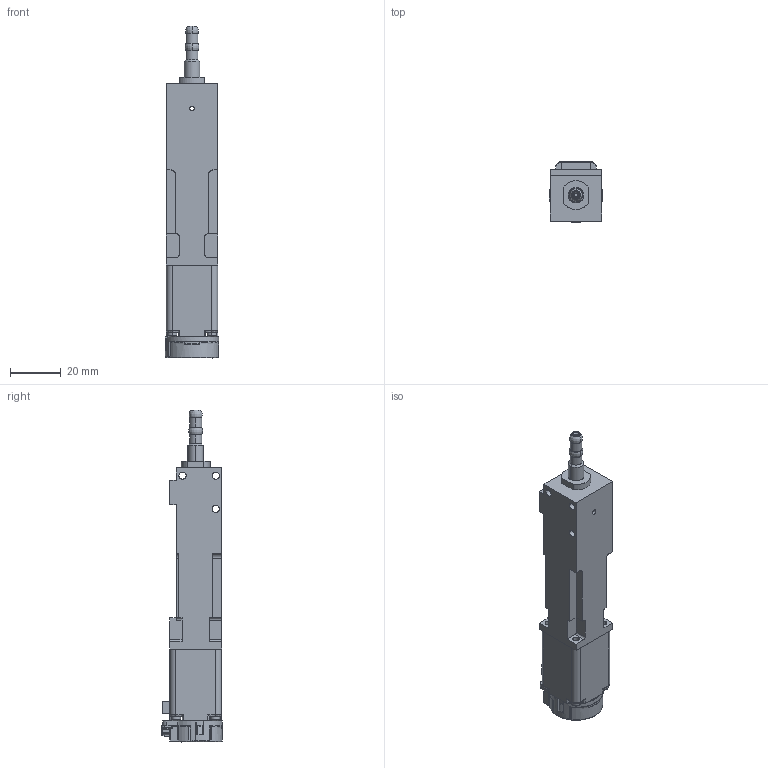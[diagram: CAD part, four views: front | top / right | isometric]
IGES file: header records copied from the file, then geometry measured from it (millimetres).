
Start section: SolidWorks IGES file using analytic representation for surfaces
Global section: file name: C:\SWPDM\GDT\TriContinent\MOD\Assembly Web\MOD91025\MOD91025 RA.IGS; native system: SolidWorks 2015; preprocessor: SolidWorks 2015; author: RAW2042; date: 170517.093453; units: inch
Bounding box: 20.98 x 23.83 x 130.34 mm (x, y, z)
Surface area: 13958.8 mm2 (no closed solid volume)
Topology: 0 solids, 0 shells, 457 faces, 5202 edges, 5188 vertices
Faces by surface type: bspline 297, revolution 160
